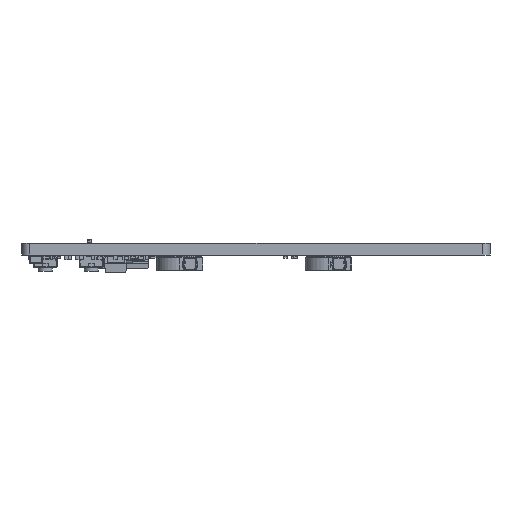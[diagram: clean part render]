
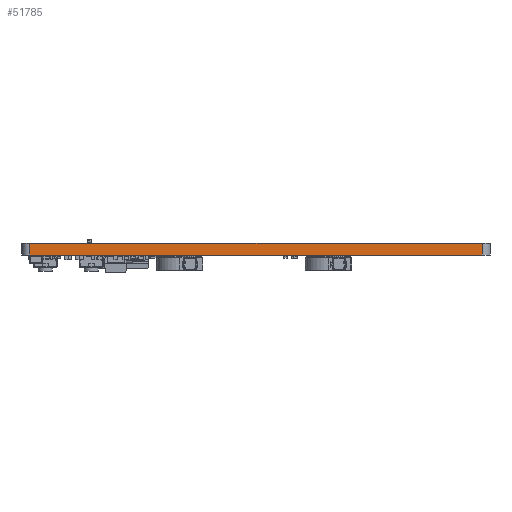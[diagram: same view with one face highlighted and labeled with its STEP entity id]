
A CAD part, left-side view. The second image highlights one B-rep face of the part: STEP entity #51785.
In plain terms, the highlighted planar face has unit normal (-1, 0, 0).
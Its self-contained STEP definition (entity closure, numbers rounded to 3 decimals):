
#50302 = VERTEX_POINT('',#50303);
#50303 = CARTESIAN_POINT('',(128.25,-51.,0.));
#50310 = EDGE_CURVE('',#50311,#50302,#50313,.T.);
#50311 = VERTEX_POINT('',#50312);
#50312 = CARTESIAN_POINT('',(128.25,-109.,0.));
#50313 = LINE('',#50314,#50315);
#50314 = CARTESIAN_POINT('',(128.25,-109.,0.));
#50315 = VECTOR('',#50316,1.);
#50316 = DIRECTION('',(0.,1.,0.));
#51004 = VERTEX_POINT('',#51005);
#51005 = CARTESIAN_POINT('',(128.25,-51.,1.51));
#51012 = EDGE_CURVE('',#51013,#51004,#51015,.T.);
#51013 = VERTEX_POINT('',#51014);
#51014 = CARTESIAN_POINT('',(128.25,-109.,1.51));
#51015 = LINE('',#51016,#51017);
#51016 = CARTESIAN_POINT('',(128.25,-109.,1.51));
#51017 = VECTOR('',#51018,1.);
#51018 = DIRECTION('',(0.,1.,0.));
#51755 = EDGE_CURVE('',#50302,#51004,#51756,.T.);
#51756 = LINE('',#51757,#51758);
#51757 = CARTESIAN_POINT('',(128.25,-51.,0.));
#51758 = VECTOR('',#51759,1.);
#51759 = DIRECTION('',(0.,0.,1.));
#51785 = ADVANCED_FACE('',(#51786),#51797,.T.);
#51786 = FACE_BOUND('',#51787,.T.);
#51787 = EDGE_LOOP('',(#51788,#51794,#51795,#51796));
#51788 = ORIENTED_EDGE('',*,*,#51789,.T.);
#51789 = EDGE_CURVE('',#50311,#51013,#51790,.T.);
#51790 = LINE('',#51791,#51792);
#51791 = CARTESIAN_POINT('',(128.25,-109.,0.));
#51792 = VECTOR('',#51793,1.);
#51793 = DIRECTION('',(0.,0.,1.));
#51794 = ORIENTED_EDGE('',*,*,#51012,.T.);
#51795 = ORIENTED_EDGE('',*,*,#51755,.F.);
#51796 = ORIENTED_EDGE('',*,*,#50310,.F.);
#51797 = PLANE('',#51798);
#51798 = AXIS2_PLACEMENT_3D('',#51799,#51800,#51801);
#51799 = CARTESIAN_POINT('',(128.25,-109.,0.));
#51800 = DIRECTION('',(-1.,0.,0.));
#51801 = DIRECTION('',(0.,1.,0.));
